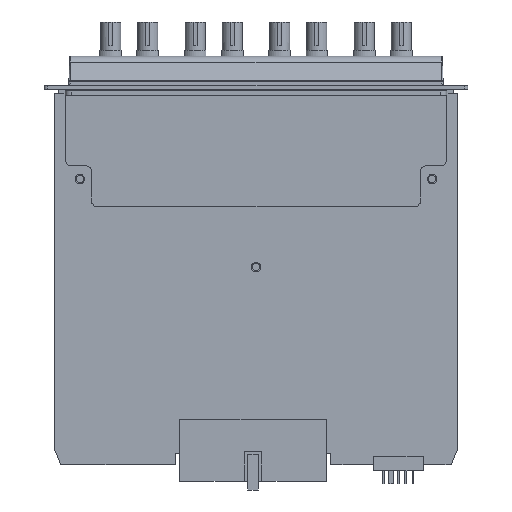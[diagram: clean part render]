
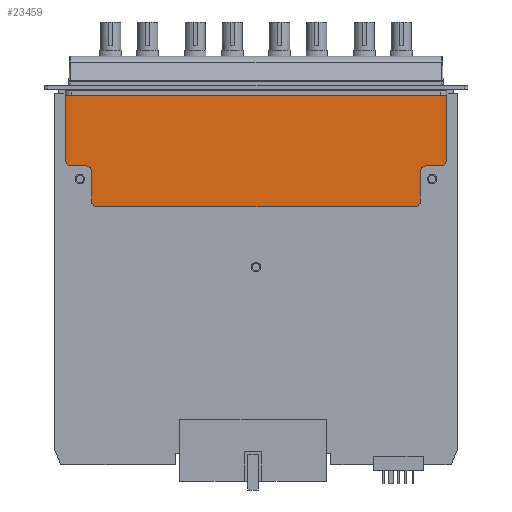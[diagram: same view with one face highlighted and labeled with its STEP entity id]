
A CAD part, left-side view. The second image highlights one B-rep face of the part: STEP entity #23459.
In plain terms, the highlighted planar face has unit normal (-1, 0, 0).
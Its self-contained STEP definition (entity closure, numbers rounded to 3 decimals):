
#7569=CARTESIAN_POINT('',(-22.9,138.,-25.3));
#7570=DIRECTION('',(-1.,0.,0.));
#7571=DIRECTION('',(0.,1.,0.));
#7572=AXIS2_PLACEMENT_3D('',#7569,#7570,#7571);
#7574=DIRECTION('',(0.,0.,-1.));
#7575=VECTOR('',#7574,22.);
#7576=CARTESIAN_POINT('',(-22.9,140.,-3.3));
#7577=LINE('',#7576,#7575);
#7578=DIRECTION('',(0.,1.,0.));
#7579=VECTOR('',#7578,130.);
#7580=CARTESIAN_POINT('',(-22.9,10.,-3.3));
#7581=LINE('',#7580,#7579);
#7582=DIRECTION('',(0.,0.,1.));
#7583=VECTOR('',#7582,22.);
#7584=CARTESIAN_POINT('',(-22.9,10.,-25.3));
#7585=LINE('',#7584,#7583);
#7586=CARTESIAN_POINT('',(-22.9,12.,-25.3));
#7587=DIRECTION('',(-1.,0.,0.));
#7588=DIRECTION('',(0.,0.,-1.));
#7589=AXIS2_PLACEMENT_3D('',#7586,#7587,#7588);
#7591=DIRECTION('',(0.,-1.,0.));
#7592=VECTOR('',#7591,5.);
#7593=CARTESIAN_POINT('',(-22.9,17.,-27.3));
#7594=LINE('',#7593,#7592);
#7595=CARTESIAN_POINT('',(-22.9,17.,-29.3));
#7596=DIRECTION('',(1.,0.,0.));
#7597=DIRECTION('',(0.,1.,0.));
#7598=AXIS2_PLACEMENT_3D('',#7595,#7596,#7597);
#7600=DIRECTION('',(0.,0.,1.));
#7601=VECTOR('',#7600,10.);
#7602=CARTESIAN_POINT('',(-22.9,19.,-39.3));
#7603=LINE('',#7602,#7601);
#7604=CARTESIAN_POINT('',(-22.9,21.,-39.3));
#7605=DIRECTION('',(-1.,0.,0.));
#7606=DIRECTION('',(0.,0.,-1.));
#7607=AXIS2_PLACEMENT_3D('',#7604,#7605,#7606);
#7609=DIRECTION('',(0.,-1.,0.));
#7610=VECTOR('',#7609,108.);
#7611=CARTESIAN_POINT('',(-22.9,129.,-41.3));
#7612=LINE('',#7611,#7610);
#7613=CARTESIAN_POINT('',(-22.9,129.,-39.3));
#7614=DIRECTION('',(-1.,0.,0.));
#7615=DIRECTION('',(0.,1.,0.));
#7616=AXIS2_PLACEMENT_3D('',#7613,#7614,#7615);
#7618=DIRECTION('',(0.,0.,-1.));
#7619=VECTOR('',#7618,10.);
#7620=CARTESIAN_POINT('',(-22.9,131.,-29.3));
#7621=LINE('',#7620,#7619);
#7622=CARTESIAN_POINT('',(-22.9,133.,-29.3));
#7623=DIRECTION('',(1.,0.,0.));
#7624=DIRECTION('',(0.,0.,1.));
#7625=AXIS2_PLACEMENT_3D('',#7622,#7623,#7624);
#7631=DIRECTION('',(0.,1.,0.));
#7632=VECTOR('',#7631,5.);
#7633=CARTESIAN_POINT('',(-22.9,133.,-27.3));
#7634=LINE('',#7633,#7632);
#12661=CARTESIAN_POINT('',(-22.9,140.,-25.3));
#12663=VERTEX_POINT('',#12661);
#12665=CARTESIAN_POINT('',(-22.9,133.,-27.3));
#12666=VERTEX_POINT('',#12665);
#12667=CARTESIAN_POINT('',(-22.9,138.,-27.3));
#12668=VERTEX_POINT('',#12667);
#12671=CARTESIAN_POINT('',(-22.9,140.,-3.3));
#12672=VERTEX_POINT('',#12671);
#12673=CARTESIAN_POINT('',(-22.9,131.,-29.3));
#12674=VERTEX_POINT('',#12673);
#12679=CARTESIAN_POINT('',(-22.9,131.,-39.3));
#12680=VERTEX_POINT('',#12679);
#12683=CARTESIAN_POINT('',(-22.9,10.,-3.3));
#12684=VERTEX_POINT('',#12683);
#12685=CARTESIAN_POINT('',(-22.9,129.,-41.3));
#12686=VERTEX_POINT('',#12685);
#12695=CARTESIAN_POINT('',(-22.9,10.,-25.3));
#12696=VERTEX_POINT('',#12695);
#12697=CARTESIAN_POINT('',(-22.9,21.,-41.3));
#12698=VERTEX_POINT('',#12697);
#12705=CARTESIAN_POINT('',(-22.9,12.,-27.3));
#12706=VERTEX_POINT('',#12705);
#12711=CARTESIAN_POINT('',(-22.9,19.,-39.3));
#12712=VERTEX_POINT('',#12711);
#12719=CARTESIAN_POINT('',(-22.9,17.,-27.3));
#12720=VERTEX_POINT('',#12719);
#12725=CARTESIAN_POINT('',(-22.9,19.,-29.3));
#12726=VERTEX_POINT('',#12725);
#23425=CARTESIAN_POINT('',(-22.9,0.,0.));
#23426=DIRECTION('',(-1.,0.,0.));
#23427=DIRECTION('',(0.,0.,1.));
#23428=AXIS2_PLACEMENT_3D('',#23425,#23426,#23427);
#23429=PLANE('',#23428);
#23431=ORIENTED_EDGE('',*,*,#23430,.T.);
#23433=ORIENTED_EDGE('',*,*,#23432,.F.);
#23435=ORIENTED_EDGE('',*,*,#23434,.F.);
#23437=ORIENTED_EDGE('',*,*,#23436,.F.);
#23438=ORIENTED_EDGE('',*,*,#23410,.F.);
#23440=ORIENTED_EDGE('',*,*,#23439,.F.);
#23442=ORIENTED_EDGE('',*,*,#23441,.F.);
#23444=ORIENTED_EDGE('',*,*,#23443,.F.);
#23446=ORIENTED_EDGE('',*,*,#23445,.F.);
#23448=ORIENTED_EDGE('',*,*,#23447,.F.);
#23450=ORIENTED_EDGE('',*,*,#23449,.F.);
#23452=ORIENTED_EDGE('',*,*,#23451,.F.);
#23454=ORIENTED_EDGE('',*,*,#23453,.F.);
#23456=ORIENTED_EDGE('',*,*,#23455,.F.);
#23457=EDGE_LOOP('',(#23431,#23433,#23435,#23437,#23438,#23440,#23442,#23444,
#23446,#23448,#23450,#23452,#23454,#23456));
#23458=FACE_OUTER_BOUND('',#23457,.F.);
#23459=ADVANCED_FACE('',(#23458),#23429,.T.);
#7573=CIRCLE('',#7572,2.);
#7590=CIRCLE('',#7589,2.);
#7599=CIRCLE('',#7598,2.);
#7608=CIRCLE('',#7607,2.);
#7617=CIRCLE('',#7616,2.);
#7626=CIRCLE('',#7625,2.);
#23410=EDGE_CURVE('',#12696,#12684,#7585,.T.);
#23430=EDGE_CURVE('',#12666,#12668,#7634,.T.);
#23432=EDGE_CURVE('',#12663,#12668,#7573,.T.);
#23434=EDGE_CURVE('',#12672,#12663,#7577,.T.);
#23436=EDGE_CURVE('',#12684,#12672,#7581,.T.);
#23439=EDGE_CURVE('',#12706,#12696,#7590,.T.);
#23441=EDGE_CURVE('',#12720,#12706,#7594,.T.);
#23443=EDGE_CURVE('',#12726,#12720,#7599,.T.);
#23445=EDGE_CURVE('',#12712,#12726,#7603,.T.);
#23447=EDGE_CURVE('',#12698,#12712,#7608,.T.);
#23449=EDGE_CURVE('',#12686,#12698,#7612,.T.);
#23451=EDGE_CURVE('',#12680,#12686,#7617,.T.);
#23453=EDGE_CURVE('',#12674,#12680,#7621,.T.);
#23455=EDGE_CURVE('',#12666,#12674,#7626,.T.);
